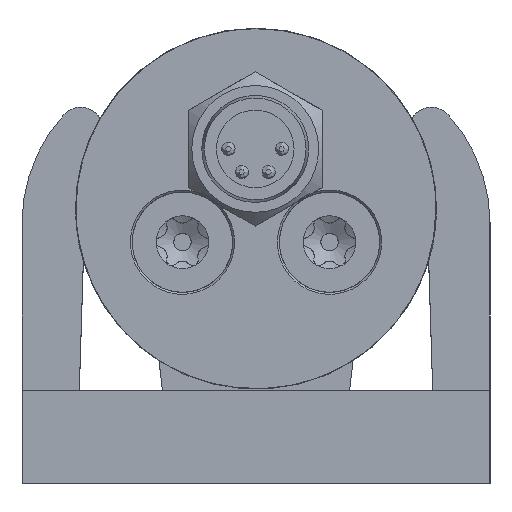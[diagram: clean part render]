
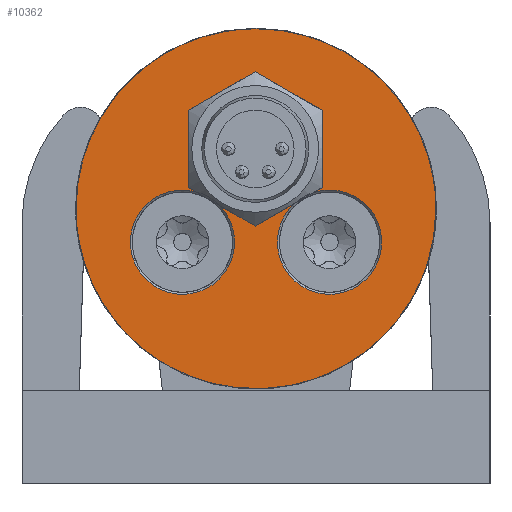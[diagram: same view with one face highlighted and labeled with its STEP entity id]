
A CAD part, front view. The second image highlights one B-rep face of the part: STEP entity #10362.
In plain terms, the highlighted planar face has unit normal (0, -1, 0).
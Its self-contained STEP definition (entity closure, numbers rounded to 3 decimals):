
#39=FACE_BOUND('',#2105,.T.);
#331=CIRCLE('',#11006,3.9);
#332=CIRCLE('',#11007,3.9);
#333=CIRCLE('',#11008,3.9);
#334=CIRCLE('',#11009,3.9);
#1087=B_SPLINE_CURVE_WITH_KNOTS('',3,(#16484,#16485,#16486,#16487,#16488,
#16489,#16490,#16491,#16492,#16493,#16494,#16495,#16496,#16497,#16498,#16499,
#16500,#16501),.UNSPECIFIED.,.F.,.F.,(4,2,2,2,2,2,2,2,4),(0.,0.619,
1.376,2.208,2.895,3.582,4.413,
5.171,5.789),.UNSPECIFIED.);
#1088=B_SPLINE_CURVE_WITH_KNOTS('',3,(#16503,#16504,#16505,#16506,#16507,
#16508,#16509,#16510,#16511,#16512),.UNSPECIFIED.,.F.,.F.,(4,2,2,2,4),(0.,
0.568,1.154,1.74,2.308),
 .UNSPECIFIED.);
#1089=B_SPLINE_CURVE_WITH_KNOTS('',3,(#16513,#16514,#16515,#16516,#16517,
#16518,#16519,#16520,#16521,#16522),.UNSPECIFIED.,.F.,.F.,(4,2,2,2,4),(0.,
0.568,1.154,1.74,2.308),
 .UNSPECIFIED.);
#1533=FACE_OUTER_BOUND('',#2104,.T.);
#2104=EDGE_LOOP('',(#6891,#6892,#6893));
#2105=EDGE_LOOP('',(#6894,#6895,#6896,#6897,#6898,#6899,#6900,#6901,#6902,
#6903,#6904,#6905));
#2730=LINE('',#16287,#3306);
#2733=LINE('',#16293,#3309);
#2735=LINE('',#16296,#3311);
#2737=LINE('',#16300,#3313);
#2738=LINE('',#16301,#3314);
#2740=LINE('',#16307,#3316);
#2741=LINE('',#16310,#3317);
#2743=LINE('',#16313,#3319);
#3306=VECTOR('',#12317,10.);
#3309=VECTOR('',#12322,10.);
#3311=VECTOR('',#12324,10.);
#3313=VECTOR('',#12328,10.);
#3314=VECTOR('',#12329,10.);
#3316=VECTOR('',#12337,10.);
#3317=VECTOR('',#12340,10.);
#3319=VECTOR('',#12344,10.);
#3909=VERTEX_POINT('',#16251);
#3910=VERTEX_POINT('',#16252);
#3918=VERTEX_POINT('',#16284);
#3919=VERTEX_POINT('',#16286);
#3920=VERTEX_POINT('',#16290);
#3921=VERTEX_POINT('',#16292);
#3922=VERTEX_POINT('',#16294);
#3923=VERTEX_POINT('',#16298);
#3924=VERTEX_POINT('',#16305);
#3925=VERTEX_POINT('',#16309);
#3943=VERTEX_POINT('',#16482);
#3944=VERTEX_POINT('',#16483);
#3945=VERTEX_POINT('',#16502);
#3946=VERTEX_POINT('',#16523);
#3947=VERTEX_POINT('',#16526);
#5023=EDGE_CURVE('',#3919,#3918,#2730,.T.);
#5026=EDGE_CURVE('',#3921,#3920,#2733,.T.);
#5028=EDGE_CURVE('',#3918,#3922,#2735,.T.);
#5030=EDGE_CURVE('',#3909,#3923,#2737,.T.);
#5031=EDGE_CURVE('',#3920,#3910,#2738,.T.);
#5034=EDGE_CURVE('',#3923,#3924,#2740,.T.);
#5035=EDGE_CURVE('',#3925,#3919,#2741,.T.);
#5037=EDGE_CURVE('',#3924,#3925,#2743,.T.);
#5066=EDGE_CURVE('',#3943,#3944,#1087,.T.);
#5067=EDGE_CURVE('',#3945,#3943,#1088,.T.);
#5068=EDGE_CURVE('',#3944,#3945,#1089,.T.);
#5069=EDGE_CURVE('',#3922,#3946,#331,.T.);
#5070=EDGE_CURVE('',#3946,#3921,#332,.T.);
#5071=EDGE_CURVE('',#3910,#3947,#333,.T.);
#5072=EDGE_CURVE('',#3947,#3909,#334,.T.);
#6891=ORIENTED_EDGE('',*,*,#5066,.F.);
#6892=ORIENTED_EDGE('',*,*,#5067,.F.);
#6893=ORIENTED_EDGE('',*,*,#5068,.F.);
#6894=ORIENTED_EDGE('',*,*,#5028,.T.);
#6895=ORIENTED_EDGE('',*,*,#5069,.T.);
#6896=ORIENTED_EDGE('',*,*,#5070,.T.);
#6897=ORIENTED_EDGE('',*,*,#5026,.T.);
#6898=ORIENTED_EDGE('',*,*,#5031,.T.);
#6899=ORIENTED_EDGE('',*,*,#5071,.T.);
#6900=ORIENTED_EDGE('',*,*,#5072,.T.);
#6901=ORIENTED_EDGE('',*,*,#5030,.T.);
#6902=ORIENTED_EDGE('',*,*,#5034,.T.);
#6903=ORIENTED_EDGE('',*,*,#5037,.T.);
#6904=ORIENTED_EDGE('',*,*,#5035,.T.);
#6905=ORIENTED_EDGE('',*,*,#5023,.T.);
#9613=PLANE('',#11005);
#10362=ADVANCED_FACE('',(#1533,#39),#9613,.T.);
#11005=AXIS2_PLACEMENT_3D('',#16481,#12422,#12423);
#11006=AXIS2_PLACEMENT_3D('',#16524,#12424,#12425);
#11007=AXIS2_PLACEMENT_3D('',#16525,#12426,#12427);
#11008=AXIS2_PLACEMENT_3D('',#16527,#12428,#12429);
#11009=AXIS2_PLACEMENT_3D('',#16528,#12430,#12431);
#12317=DIRECTION('',(0.,0.,-1.));
#12322=DIRECTION('',(-0.866,0.,-0.5));
#12324=DIRECTION('',(-0.866,0.,-0.5));
#12328=DIRECTION('',(-0.866,0.,0.5));
#12329=DIRECTION('',(-0.866,0.,0.5));
#12337=DIRECTION('',(0.,0.,1.));
#12340=DIRECTION('',(0.866,0.,-0.5));
#12344=DIRECTION('',(0.866,0.,0.5));
#12422=DIRECTION('center_axis',(0.,-1.,0.));
#12423=DIRECTION('ref_axis',(-1.,0.,0.));
#12424=DIRECTION('center_axis',(0.,1.,0.));
#12425=DIRECTION('ref_axis',(1.,0.,0.));
#12426=DIRECTION('center_axis',(0.,1.,0.));
#12427=DIRECTION('ref_axis',(1.,0.,0.));
#12428=DIRECTION('center_axis',(0.,1.,0.));
#12429=DIRECTION('ref_axis',(1.,0.,0.));
#12430=DIRECTION('center_axis',(0.,1.,0.));
#12431=DIRECTION('ref_axis',(1.,0.,0.));
#16251=CARTESIAN_POINT('',(-110.847,-28.458,5.824));
#16252=CARTESIAN_POINT('',(-109.047,-28.458,4.785));
#16284=CARTESIAN_POINT('',(-101.384,-28.458,6.134));
#16286=CARTESIAN_POINT('',(-101.384,-28.458,11.907));
#16287=CARTESIAN_POINT('',(-101.384,-28.458,12.766));
#16290=CARTESIAN_POINT('',(-106.384,-28.458,3.247));
#16292=CARTESIAN_POINT('',(-103.429,-28.458,4.953));
#16293=CARTESIAN_POINT('',(-97.296,-28.458,8.494));
#16294=CARTESIAN_POINT('',(-102.04,-28.458,5.755));
#16296=CARTESIAN_POINT('',(-97.296,-28.458,8.494));
#16298=CARTESIAN_POINT('',(-111.384,-28.458,6.134));
#16300=CARTESIAN_POINT('',(-106.79,-28.458,3.482));
#16301=CARTESIAN_POINT('',(-106.79,-28.458,3.482));
#16305=CARTESIAN_POINT('',(-111.384,-28.458,11.907));
#16307=CARTESIAN_POINT('',(-111.384,-28.458,15.653));
#16309=CARTESIAN_POINT('',(-106.384,-28.458,14.794));
#16310=CARTESIAN_POINT('',(-99.29,-28.458,10.699));
#16313=CARTESIAN_POINT('',(-99.796,-28.458,18.597));
#16481=CARTESIAN_POINT('Origin',(-91.476,-28.458,19.399));
#16482=CARTESIAN_POINT('',(-92.87,-28.458,4.549));
#16483=CARTESIAN_POINT('',(-119.782,-28.458,4.549));
#16484=CARTESIAN_POINT('Ctrl Pts',(-92.87,-28.458,4.549));
#16485=CARTESIAN_POINT('Ctrl Pts',(-92.87,-28.458,2.487));
#16486=CARTESIAN_POINT('Ctrl Pts',(-93.344,-28.458,0.74));
#16487=CARTESIAN_POINT('Ctrl Pts',(-94.547,-28.458,-2.187));
#16488=CARTESIAN_POINT('Ctrl Pts',(-95.515,-28.458,-3.65));
#16489=CARTESIAN_POINT('Ctrl Pts',(-98.084,-28.458,-6.258));
#16490=CARTESIAN_POINT('Ctrl Pts',(-99.61,-28.458,-7.23));
#16491=CARTESIAN_POINT('Ctrl Pts',(-102.429,-28.458,-8.404));
#16492=CARTESIAN_POINT('Ctrl Pts',(-104.188,-28.458,-8.907));
#16493=CARTESIAN_POINT('Ctrl Pts',(-108.464,-28.458,-8.907));
#16494=CARTESIAN_POINT('Ctrl Pts',(-110.224,-28.458,-8.404));
#16495=CARTESIAN_POINT('Ctrl Pts',(-113.042,-28.458,-7.23));
#16496=CARTESIAN_POINT('Ctrl Pts',(-114.568,-28.458,-6.258));
#16497=CARTESIAN_POINT('Ctrl Pts',(-117.137,-28.458,-3.65));
#16498=CARTESIAN_POINT('Ctrl Pts',(-118.105,-28.458,-2.187));
#16499=CARTESIAN_POINT('Ctrl Pts',(-119.308,-28.458,0.74));
#16500=CARTESIAN_POINT('Ctrl Pts',(-119.782,-28.458,2.487));
#16501=CARTESIAN_POINT('Ctrl Pts',(-119.782,-28.458,4.549));
#16502=CARTESIAN_POINT('',(-106.326,-28.458,18.005));
#16503=CARTESIAN_POINT('Ctrl Pts',(-106.326,-28.458,18.005));
#16504=CARTESIAN_POINT('Ctrl Pts',(-104.434,-28.458,18.005));
#16505=CARTESIAN_POINT('Ctrl Pts',(-102.666,-28.458,17.607));
#16506=CARTESIAN_POINT('Ctrl Pts',(-99.506,-28.458,16.279));
#16507=CARTESIAN_POINT('Ctrl Pts',(-98.049,-28.458,15.301));
#16508=CARTESIAN_POINT('Ctrl Pts',(-95.574,-28.458,12.826));
#16509=CARTESIAN_POINT('Ctrl Pts',(-94.596,-28.458,11.369));
#16510=CARTESIAN_POINT('Ctrl Pts',(-93.268,-28.458,8.209));
#16511=CARTESIAN_POINT('Ctrl Pts',(-92.87,-28.458,6.441));
#16512=CARTESIAN_POINT('Ctrl Pts',(-92.87,-28.458,4.549));
#16513=CARTESIAN_POINT('Ctrl Pts',(-119.782,-28.458,4.549));
#16514=CARTESIAN_POINT('Ctrl Pts',(-119.782,-28.458,6.441));
#16515=CARTESIAN_POINT('Ctrl Pts',(-119.384,-28.458,8.209));
#16516=CARTESIAN_POINT('Ctrl Pts',(-118.056,-28.458,11.369));
#16517=CARTESIAN_POINT('Ctrl Pts',(-117.078,-28.458,12.826));
#16518=CARTESIAN_POINT('Ctrl Pts',(-114.603,-28.458,15.301));
#16519=CARTESIAN_POINT('Ctrl Pts',(-113.147,-28.458,16.279));
#16520=CARTESIAN_POINT('Ctrl Pts',(-109.986,-28.458,17.607));
#16521=CARTESIAN_POINT('Ctrl Pts',(-108.219,-28.458,18.005));
#16522=CARTESIAN_POINT('Ctrl Pts',(-106.326,-28.458,18.005));
#16523=CARTESIAN_POINT('',(-97.652,-28.458,-0.217));
#16524=CARTESIAN_POINT('Origin',(-100.826,-28.458,2.049));
#16525=CARTESIAN_POINT('Origin',(-100.826,-28.458,2.049));
#16526=CARTESIAN_POINT('',(-108.652,-28.458,-0.217));
#16527=CARTESIAN_POINT('Origin',(-111.826,-28.458,2.049));
#16528=CARTESIAN_POINT('Origin',(-111.826,-28.458,2.049));
